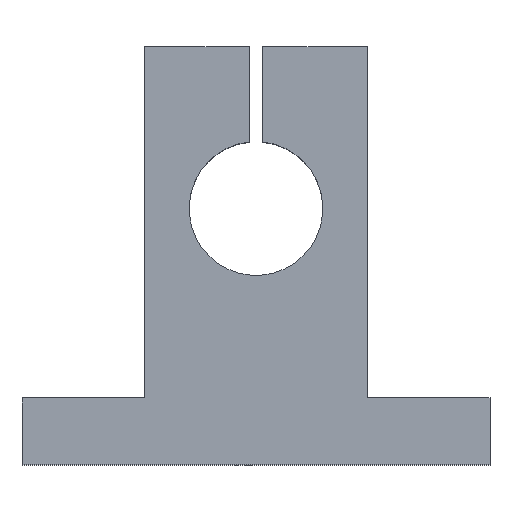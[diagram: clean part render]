
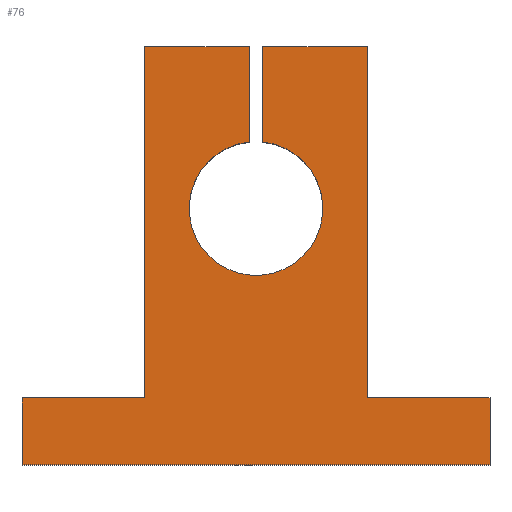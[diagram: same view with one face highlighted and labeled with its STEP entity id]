
A CAD part, top view. The second image highlights one B-rep face of the part: STEP entity #76.
In plain terms, the highlighted planar face has unit normal (0, 0, 1).
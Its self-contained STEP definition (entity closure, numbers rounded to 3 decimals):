
#76 = ADVANCED_FACE( '', ( #94 ), #95, .T. );
#94 = FACE_OUTER_BOUND( '', #132, .T. );
#95 = PLANE( '', #133 );
#132 = EDGE_LOOP( '', ( #175, #176, #177, #178, #179, #180, #181, #182, #183, #184, #185, #186 ) );
#133 = AXIS2_PLACEMENT_3D( '', #187, #188, #189 );
#175 = ORIENTED_EDGE( '', *, *, #300, .T. );
#176 = ORIENTED_EDGE( '', *, *, #301, .T. );
#177 = ORIENTED_EDGE( '', *, *, #302, .T. );
#178 = ORIENTED_EDGE( '', *, *, #303, .T. );
#179 = ORIENTED_EDGE( '', *, *, #304, .T. );
#180 = ORIENTED_EDGE( '', *, *, #305, .T. );
#181 = ORIENTED_EDGE( '', *, *, #306, .T. );
#182 = ORIENTED_EDGE( '', *, *, #307, .T. );
#183 = ORIENTED_EDGE( '', *, *, #308, .F. );
#184 = ORIENTED_EDGE( '', *, *, #309, .T. );
#185 = ORIENTED_EDGE( '', *, *, #310, .T. );
#186 = ORIENTED_EDGE( '', *, *, #298, .T. );
#187 = CARTESIAN_POINT( '', ( 0., 23., 7. ) );
#188 = DIRECTION( '', ( 0., 0., 1. ) );
#189 = DIRECTION( '', ( 1., 0., 0. ) );
#298 = EDGE_CURVE( '', #341, #339, #342, .T. );
#300 = EDGE_CURVE( '', #339, #344, #345, .T. );
#301 = EDGE_CURVE( '', #344, #346, #347, .T. );
#302 = EDGE_CURVE( '', #346, #348, #349, .T. );
#303 = EDGE_CURVE( '', #348, #350, #351, .T. );
#304 = EDGE_CURVE( '', #350, #352, #353, .T. );
#305 = EDGE_CURVE( '', #352, #354, #355, .T. );
#306 = EDGE_CURVE( '', #354, #356, #357, .T. );
#307 = EDGE_CURVE( '', #356, #358, #359, .T. );
#308 = EDGE_CURVE( '', #360, #358, #361, .T. );
#309 = EDGE_CURVE( '', #360, #362, #363, .T. );
#310 = EDGE_CURVE( '', #362, #341, #364, .T. );
#339 = VERTEX_POINT( '', #408 );
#341 = VERTEX_POINT( '', #411 );
#342 = LINE( '', #412, #413 );
#344 = VERTEX_POINT( '', #416 );
#345 = LINE( '', #417, #418 );
#346 = VERTEX_POINT( '', #419 );
#347 = LINE( '', #420, #421 );
#348 = VERTEX_POINT( '', #422 );
#349 = LINE( '', #423, #424 );
#350 = VERTEX_POINT( '', #425 );
#351 = LINE( '', #426, #427 );
#352 = VERTEX_POINT( '', #428 );
#353 = LINE( '', #429, #430 );
#354 = VERTEX_POINT( '', #431 );
#355 = LINE( '', #432, #433 );
#356 = VERTEX_POINT( '', #434 );
#357 = LINE( '', #435, #436 );
#358 = VERTEX_POINT( '', #437 );
#359 = LINE( '', #438, #439 );
#360 = VERTEX_POINT( '', #440 );
#361 = CIRCLE( '', #441, 6. );
#362 = VERTEX_POINT( '', #442 );
#363 = LINE( '', #443, #444 );
#364 = LINE( '', #445, #446 );
#408 = CARTESIAN_POINT( '', ( -10., 6., 7. ) );
#411 = CARTESIAN_POINT( '', ( -10., 37.5, 7. ) );
#412 = CARTESIAN_POINT( '', ( -10., 37.5, 7. ) );
#413 = VECTOR( '', #508, 1000. );
#416 = CARTESIAN_POINT( '', ( -21., 6., 7. ) );
#417 = CARTESIAN_POINT( '', ( -10., 6., 7. ) );
#418 = VECTOR( '', #510, 1000. );
#419 = CARTESIAN_POINT( '', ( -21., 0., 7. ) );
#420 = CARTESIAN_POINT( '', ( -21., 6., 7. ) );
#421 = VECTOR( '', #511, 1000. );
#422 = CARTESIAN_POINT( '', ( 21., 0., 7. ) );
#423 = CARTESIAN_POINT( '', ( -21., 0., 7. ) );
#424 = VECTOR( '', #512, 1000. );
#425 = CARTESIAN_POINT( '', ( 21., 6., 7. ) );
#426 = CARTESIAN_POINT( '', ( 21., 0., 7. ) );
#427 = VECTOR( '', #513, 1000. );
#428 = CARTESIAN_POINT( '', ( 10., 6., 7. ) );
#429 = CARTESIAN_POINT( '', ( 21., 6., 7. ) );
#430 = VECTOR( '', #514, 1000. );
#431 = CARTESIAN_POINT( '', ( 10., 37.5, 7. ) );
#432 = CARTESIAN_POINT( '', ( 10., 6., 7. ) );
#433 = VECTOR( '', #515, 1000. );
#434 = CARTESIAN_POINT( '', ( 0.6, 37.5, 7. ) );
#435 = CARTESIAN_POINT( '', ( 10., 37.5, 7. ) );
#436 = VECTOR( '', #516, 1000. );
#437 = CARTESIAN_POINT( '', ( 0.6, 28.97, 7. ) );
#438 = CARTESIAN_POINT( '', ( 0.6, 37.5, 7. ) );
#439 = VECTOR( '', #517, 1000. );
#440 = CARTESIAN_POINT( '', ( -0.6, 28.97, 7. ) );
#441 = AXIS2_PLACEMENT_3D( '', #518, #519, #520 );
#442 = CARTESIAN_POINT( '', ( -0.6, 37.5, 7. ) );
#443 = CARTESIAN_POINT( '', ( -0.6, 28.97, 7. ) );
#444 = VECTOR( '', #521, 1000. );
#445 = CARTESIAN_POINT( '', ( -0.6, 37.5, 7. ) );
#446 = VECTOR( '', #522, 1000. );
#508 = DIRECTION( '', ( 0., -1., 0. ) );
#510 = DIRECTION( '', ( -1., 0., 0. ) );
#511 = DIRECTION( '', ( 0., -1., 0. ) );
#512 = DIRECTION( '', ( 1., 0., 0. ) );
#513 = DIRECTION( '', ( 0., 1., 0. ) );
#514 = DIRECTION( '', ( -1., 0., 0. ) );
#515 = DIRECTION( '', ( 0., 1., 0. ) );
#516 = DIRECTION( '', ( -1., 0., 0. ) );
#517 = DIRECTION( '', ( 0., -1., 0. ) );
#518 = CARTESIAN_POINT( '', ( 0., 23., 7. ) );
#519 = DIRECTION( '', ( 0., 0., 1. ) );
#520 = DIRECTION( '', ( 1., 0., 0. ) );
#521 = DIRECTION( '', ( 0., 1., 0. ) );
#522 = DIRECTION( '', ( -1., 0., 0. ) );
